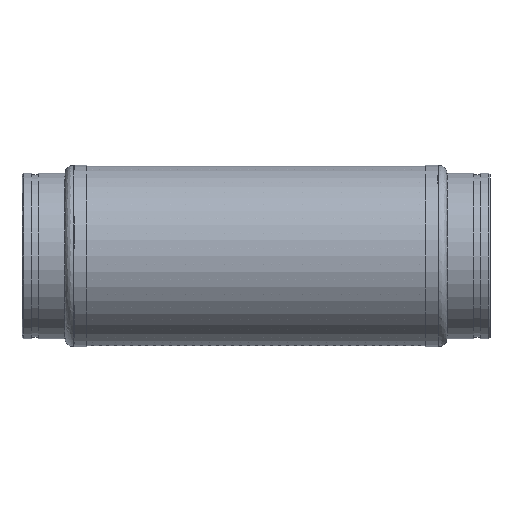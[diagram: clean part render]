
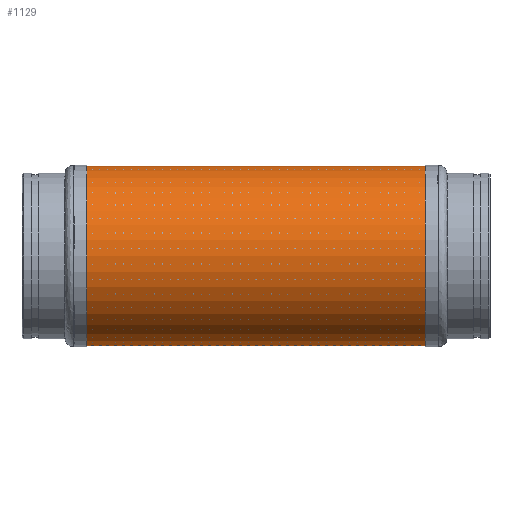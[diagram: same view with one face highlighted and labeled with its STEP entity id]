
A CAD part, left-side view. The second image highlights one B-rep face of the part: STEP entity #1129.
In plain terms, the highlighted cylindrical face has radius 175.768 mm (diameter 351.536 mm), a full revolution.
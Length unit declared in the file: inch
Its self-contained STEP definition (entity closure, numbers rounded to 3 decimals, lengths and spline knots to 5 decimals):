
#1095=CARTESIAN_POINT('',(-6.92,-14.,0.));
#1096=VERTEX_POINT('',#1095);
#1097=CARTESIAN_POINT('',(0.0,-14.,0.0));
#1098=DIRECTION('',(0.0,1.0,0.0));
#1099=DIRECTION('',(1.0,0.0,0.0));
#1100=AXIS2_PLACEMENT_3D('',#1097,#1098,#1099);
#1101=CIRCLE('',#1100,6.92);
#1102=EDGE_CURVE('',#1096,#1096,#1101,.T.);
#1110=CARTESIAN_POINT('',(0.0,0.0,0.0));
#1111=DIRECTION('',(0.0,1.0,0.0));
#1112=DIRECTION('',(1.0,0.0,0.0));
#1113=AXIS2_PLACEMENT_3D('',#1110,#1111,#1112);
#1114=CYLINDRICAL_SURFACE('',#1113,6.92);
#1115=ORIENTED_EDGE('',*,*,#1102,.T.);
#1116=EDGE_LOOP('',(#1115));
#1117=FACE_OUTER_BOUND('',#1116,.T.);
#1118=CARTESIAN_POINT('',(-6.92,14.,0.));
#1119=VERTEX_POINT('',#1118);
#1120=CARTESIAN_POINT('',(0.0,14.,0.0));
#1121=DIRECTION('',(0.0,-1.0,0.0));
#1122=DIRECTION('',(1.0,0.0,0.0));
#1123=AXIS2_PLACEMENT_3D('',#1120,#1121,#1122);
#1124=CIRCLE('',#1123,6.92);
#1125=EDGE_CURVE('',#1119,#1119,#1124,.T.);
#1126=ORIENTED_EDGE('',*,*,#1125,.T.);
#1127=EDGE_LOOP('',(#1126));
#1128=FACE_BOUND('',#1127,.T.);
#1129=ADVANCED_FACE('',(#1117,#1128),#1114,.T.);
